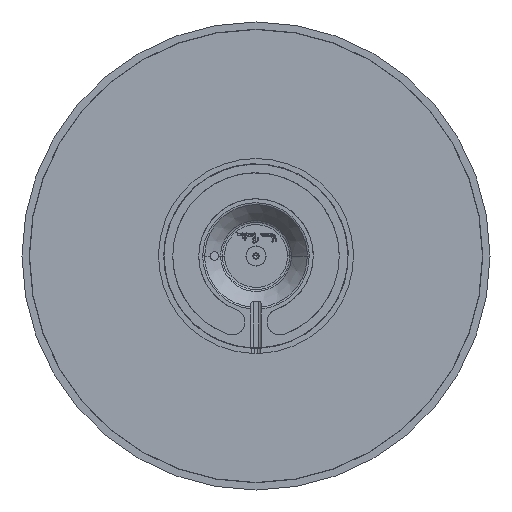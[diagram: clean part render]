
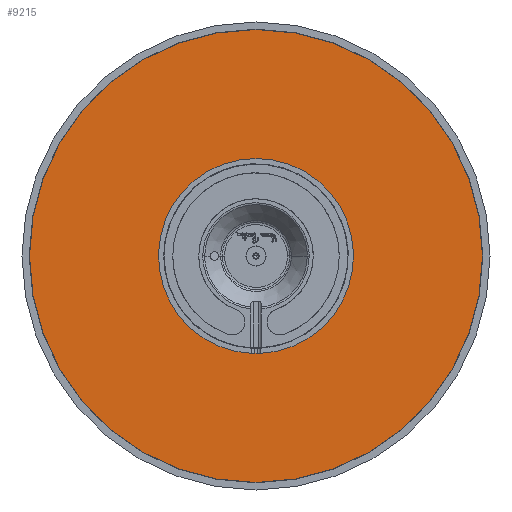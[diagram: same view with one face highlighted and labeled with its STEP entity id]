
A CAD part, front view. The second image highlights one B-rep face of the part: STEP entity #9215.
In plain terms, the highlighted planar face has unit normal (0, -1, 0).
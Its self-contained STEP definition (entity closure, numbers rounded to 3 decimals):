
#87 = ORIENTED_EDGE ( 'NONE', *, *, #1081, .T. ) ;
#167 = AXIS2_PLACEMENT_3D ( 'NONE', #10966, #3843, #7794 ) ;
#219 = DIRECTION ( 'NONE',  ( 0., 0., 1. ) ) ;
#272 = DIRECTION ( 'NONE',  ( 0., -1., 0. ) ) ;
#409 = FACE_OUTER_BOUND ( 'NONE', #2047, .T. ) ;
#1008 = AXIS2_PLACEMENT_3D ( 'NONE', #2999, #1011, #8132 ) ;
#1011 = DIRECTION ( 'NONE',  ( 0., -1., 0. ) ) ;
#1081 = EDGE_CURVE ( 'NONE', #9796, #6753, #2916, .T. ) ;
#1585 = VERTEX_POINT ( 'NONE', #8577 ) ;
#2023 = DIRECTION ( 'NONE',  ( 0., 0., 1. ) ) ;
#2047 = EDGE_LOOP ( 'NONE', ( #6664, #87 ) ) ;
#2186 = CARTESIAN_POINT ( 'NONE',  ( 93.007, 264.794, 2.023 ) ) ;
#2319 = DIRECTION ( 'NONE',  ( 0., 1., 0. ) ) ;
#2436 = PLANE ( 'NONE',  #3054 ) ;
#2512 = AXIS2_PLACEMENT_3D ( 'NONE', #7103, #6978, #2023 ) ;
#2916 = CIRCLE ( 'NONE', #167, 87.097 ) ;
#2999 = CARTESIAN_POINT ( 'NONE',  ( 93.007, 264.794, 2.023 ) ) ;
#3054 = AXIS2_PLACEMENT_3D ( 'NONE', #2186, #272, #6203 ) ;
#3843 = DIRECTION ( 'NONE',  ( 0., -1., 0. ) ) ;
#4090 = ORIENTED_EDGE ( 'NONE', *, *, #6554, .T. ) ;
#4236 = CARTESIAN_POINT ( 'NONE',  ( 93.007, 264.794, 89.12 ) ) ;
#4333 = EDGE_CURVE ( 'NONE', #1585, #4676, #5659, .T. ) ;
#4676 = VERTEX_POINT ( 'NONE', #11022 ) ;
#4997 = EDGE_LOOP ( 'NONE', ( #5192, #4090 ) ) ;
#5192 = ORIENTED_EDGE ( 'NONE', *, *, #4333, .T. ) ;
#5659 = CIRCLE ( 'NONE', #2512, 16.25 ) ;
#6203 = DIRECTION ( 'NONE',  ( 0., 0., -1. ) ) ;
#6454 = EDGE_CURVE ( 'NONE', #6753, #9796, #6688, .T. ) ;
#6554 = EDGE_CURVE ( 'NONE', #4676, #1585, #10925, .T. ) ;
#6664 = ORIENTED_EDGE ( 'NONE', *, *, #6454, .T. ) ;
#6688 = CIRCLE ( 'NONE', #1008, 87.097 ) ;
#6753 = VERTEX_POINT ( 'NONE', #11639 ) ;
#6978 = DIRECTION ( 'NONE',  ( 0., 1., 0. ) ) ;
#7103 = CARTESIAN_POINT ( 'NONE',  ( 93.007, 264.794, 2.023 ) ) ;
#7269 = CARTESIAN_POINT ( 'NONE',  ( 93.007, 264.794, 2.023 ) ) ;
#7794 = DIRECTION ( 'NONE',  ( 0., 0., -1. ) ) ;
#8132 = DIRECTION ( 'NONE',  ( 0., 0., -1. ) ) ;
#8577 = CARTESIAN_POINT ( 'NONE',  ( 93.007, 264.794, 18.273 ) ) ;
#9215 = ADVANCED_FACE ( 'NONE', ( #12207, #409 ), #2436, .T. ) ;
#9796 = VERTEX_POINT ( 'NONE', #4236 ) ;
#10925 = CIRCLE ( 'NONE', #12169, 16.25 ) ;
#10966 = CARTESIAN_POINT ( 'NONE',  ( 93.007, 264.794, 2.023 ) ) ;
#11022 = CARTESIAN_POINT ( 'NONE',  ( 93.007, 264.794, -14.227 ) ) ;
#11639 = CARTESIAN_POINT ( 'NONE',  ( 93.007, 264.794, -85.074 ) ) ;
#12169 = AXIS2_PLACEMENT_3D ( 'NONE', #7269, #2319, #219 ) ;
#12207 = FACE_BOUND ( 'NONE', #4997, .T. ) ;
